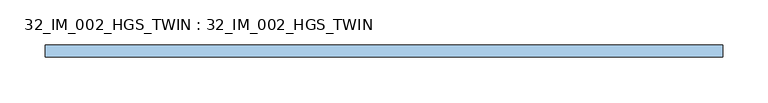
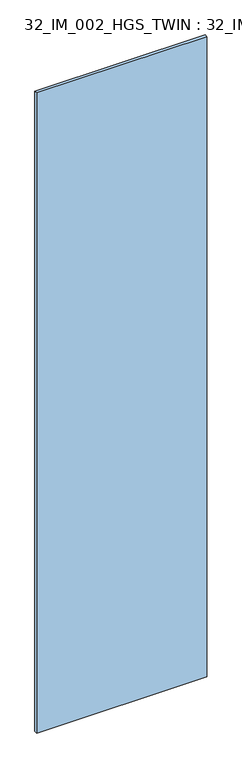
"""IFC4 building model written with IfcOpenShell, lengths in millimetres: window geometry, 32_IM_002_HGS_TWIN : 32_IM_002_HGS_TWIN."""

from ifc_helpers import new_model, si_unit, origin, origin_with_axes, place, context, project, spatial, polyline, outline, extrude, source, transform, mapped, element, save


def window_32_im_002_hgs_twin_32_im_002_hgs_twin_786c4ea9(model_context):
    return source(origin(), model_context, "Body", "SweptSolid", [
        extrude(outline(polyline([(372.0, -6.4), (-372.0, -6.4), (-372.0, 6.4), (372.0, 6.4), (372.0, -6.4)])), origin_with_axes(), (0.0, 0.0, 1.0), 2956.0),
    ])


if __name__ == "__main__":
    model = new_model("IFC4")
    model_context = context("Model", 3, world=origin())
    ifc_project = project(units=[si_unit("LENGTHUNIT", "METRE", prefix="MILLI")], contexts=[model_context])
    site = spatial("IfcSite", under=ifc_project)
    building = spatial("IfcBuilding", under=site)
    placement = place(None, origin())
    window_32_im_002_hgs_twin_32_im_002_hgs_twin_shape = window_32_im_002_hgs_twin_32_im_002_hgs_twin_786c4ea9(model_context)
    element("IfcWindow", 1, ObjectType="32_IM_002_HGS_TWIN : 32_IM_002_HGS_TWIN", at=placement, inside=building, context=model_context, shape_type="MappedRepresentation", body=[
        mapped(window_32_im_002_hgs_twin_32_im_002_hgs_twin_shape, transform((0.0, 0.0, 0.0), x_axis=(1.0, 0.0, 0.0), y_axis=(0.0, 1.0, 0.0), z_axis=(0.0, 0.0, 1.0))),
    ])
    save(model, "model.ifc")
